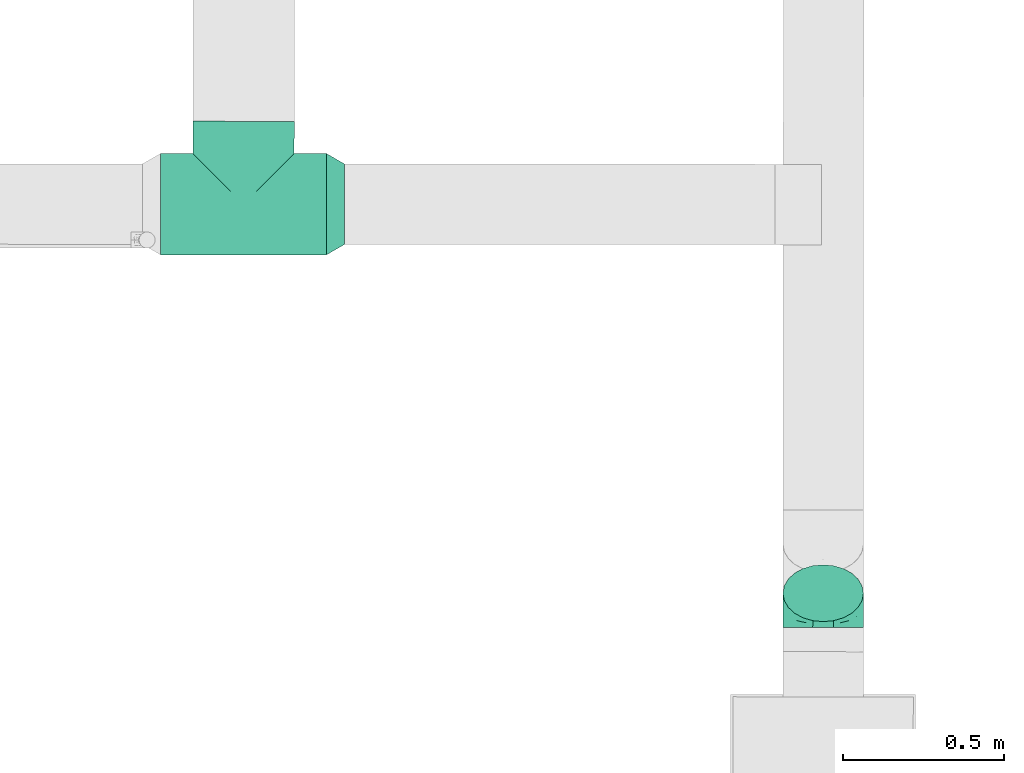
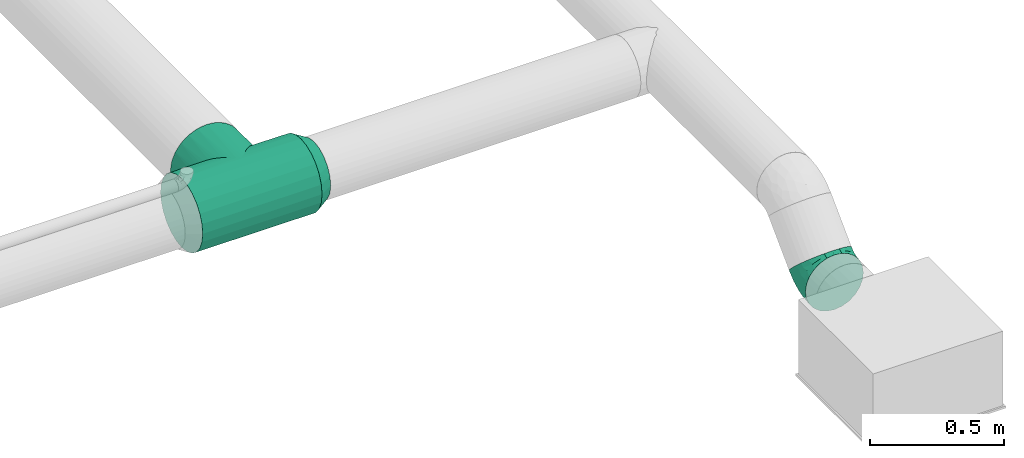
# One storey, part 27 of 63: 3 flow fittings.
"""IFC2X3 building model written with IfcOpenShell, lengths in millimetres."""

from ifc_helpers import new_model, entity, si_unit, converted_unit, derived_unit, direction, frame, origin_with_axes, place, context, subcontext, project, spatial, open_shell, surface_model, source, transform, mapped, type_object, element, save


model = new_model("IFC2X3")

# Units and contexts
model_context = context("Model", 3, precision=0.01, world=frame((0.0, 4.29681676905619e-09, 0.0)), true_north=direction((4.01073788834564e-13, 1.0)))
plan_context = context("Plan", 3, precision=0.01, world=frame((0.0, 4.29681676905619e-09, 0.0)), true_north=direction((4.01073788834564e-13, 1.0)))
body_context = subcontext(model_context, "Body", "Model", "MODEL_VIEW")
ifc_project = project(units=[converted_unit("PLANEANGLEUNIT", "DEGREE", entity("IfcPositiveLengthMeasure", 0.0174532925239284), si_unit("PLANEANGLEUNIT", "RADIAN"), dimensions=[0, 0, 0, 0, 0, 0, 0]), si_unit("AREAUNIT", "SQUARE_METRE"), si_unit("LENGTHUNIT", "METRE", prefix="MILLI"), si_unit("MASSUNIT", "GRAM", prefix="KILO"), si_unit("POWERUNIT", "WATT"), si_unit("PRESSUREUNIT", "PASCAL"), si_unit("FORCEUNIT", "NEWTON", prefix="KILO"), si_unit("ELECTRICVOLTAGEUNIT", "VOLT"), si_unit("ELECTRICCURRENTUNIT", "AMPERE"), si_unit("THERMODYNAMICTEMPERATUREUNIT", "DEGREE_CELSIUS"), si_unit("TIMEUNIT", "SECOND"), si_unit("VOLUMEUNIT", "CUBIC_METRE"), derived_unit("LINEARVELOCITYUNIT", [(si_unit("LENGTHUNIT", "METRE"), 1), (si_unit("TIMEUNIT", "SECOND"), -1)]), derived_unit("VOLUMETRICFLOWRATEUNIT", [(si_unit("VOLUMEUNIT", "CUBIC_METRE"), 1), (si_unit("TIMEUNIT", "SECOND"), -1)]), derived_unit("THERMALTRANSMITTANCEUNIT", [(si_unit("POWERUNIT", "WATT"), 1), (si_unit("THERMODYNAMICTEMPERATUREUNIT", "KELVIN"), -1), (si_unit("AREAUNIT", "SQUARE_METRE"), -1)]), derived_unit("SOUNDPRESSUREUNIT", [(si_unit("PRESSUREUNIT", "PASCAL"), 1)])], contexts=[model_context, plan_context])

# Site, building, storey
site_placement = place(None, frame((0.0, -4.29681676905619e-09, 0.0), z_axis=(0.0, 0.0, 1.0), x_axis=(1.0, 0.0, 0.0)))
site = spatial("IfcSite", under=ifc_project, at=site_placement, CompositionType="ELEMENT")
building_placement = place(site_placement, frame((0.0, 4.29681676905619e-09, 0.0), z_axis=(0.0, 0.0, 1.0), x_axis=(1.0, 0.0, 0.0)))
building = spatial("IfcBuilding", under=site, at=building_placement, Name="mc-building", CompositionType="ELEMENT")
storey_placement = place(building_placement, frame((0.0, 0.0, 210900.0), z_axis=(0.0, 0.0, 1.0), x_axis=(1.0, 0.0, 0.0)))
storey = spatial("IfcBuildingStorey", under=building, at=storey_placement, Name="Nivå F", CompositionType="ELEMENT", Elevation=210900.0)

# Flow fittings
duct_fitting_type_1 = type_object("IfcDuctFittingType", Name="magicirc_elbow_short_001", PredefinedType="BEND")
shared_shape_1 = source(origin_with_axes(), body_context, "Body", "SurfaceModel", [
    surface_model("IfcShellBasedSurfaceModel", [(-62.13204, 0.0, -125.0), (-62.13204, -32.35238, -120.74073), (-62.13204, 32.35238, -120.74073), (-62.13204, 62.5, -108.25318), (-62.13204, 88.38835, -88.38835), (-62.13204, 108.25318, -62.5), (-62.13204, 120.74073, -32.35238), (-62.13204, -62.5, -108.25318), (-62.13204, -88.38835, -88.38835), (-62.13204, -125.0, 0.0), (-62.13204, -108.25318, -62.5), (-62.13204, -120.74073, -32.35238), (-62.13204, 125.0, 0.0), (-62.13204, -120.74073, 32.35238), (-62.13204, 120.74073, 32.35238), (-62.13204, 108.25318, 62.5), (-62.13204, 32.35238, 120.74073), (-62.13204, 62.5, 108.25318), (-62.13204, 88.38835, 88.38835), (-62.13204, -88.38835, 88.38835), (-62.13204, -108.25318, 62.5), (-62.13204, -32.35238, 120.74073), (-62.13204, 0.0, 125.0), (-62.13204, -62.5, 108.25318), (-32.61257, 120.48054, -62.5), (-41.44261, 129.31057, -32.35238), (-44.45436, 132.32233, 0.0), (-41.44261, 129.31057, 32.35238), (-32.61257, 120.48054, 62.5), (-39.32094, -100.77129, 72.52866), (-25.3983, -115.58366, 40.92131), (-9.38975, -99.61313, 67.6303), (-40.71594, 99.20513, 81.38635), (-18.56602, 106.43398, 88.38835), (6.93461, -16.74165, 121.22697), (-29.92798, -19.88945, 122.8817), (-17.69423, -50.99343, 111.83063), (-28.63512, 12.8945, 124.68547), (-43.55871, 45.16564, 117.17454), (-19.1971, 46.34588, 119.14586), (20.11216, -107.05726, 35.36285), (37.22525, -89.79474, 60.1728), (-42.64489, 65.81413, 107.6176), (18.18237, -43.89615, 109.72868), (-48.14682, 116.23669, 52.46898), (11.13029, 29.36587, 124.68547), (-8.4822, -119.71595, 0.0), (17.31186, -111.89141, 0.0), (-27.44697, 77.92943, 103.54984), (-1.13628, 62.73759, 117.17454), (-0.26019, 88.12816, 108.25318), (29.58221, -71.41779, 87.09722), (2.27359, -83.55864, 84.32151), (46.20365, -49.09439, 98.73245), (43.10591, -104.06687, 0.0), (-28.63512, 12.89449, -124.68547), (-29.92797, -19.88945, -122.8817), (11.13029, 29.36586, -124.68547), (-19.1971, 46.34588, -119.14586), (-43.55871, 45.16564, -117.17454), (-35.69649, 74.51237, -103.54983), (-25.3983, -115.58366, -40.92131), (-48.14682, 116.23669, -52.46898), (-39.32094, -100.77129, -72.52866), (-16.38313, 76.69211, -107.6176), (-18.56602, 106.43398, -88.38835), (-0.26019, 88.12816, -108.25318), (-17.69423, -50.99343, -111.83063), (6.93461, -16.74165, -121.22697), (-1.13628, 62.73759, -117.17454), (48.5695, -23.54609, -111.83063), (35.22623, 7.0983, -122.8817), (-9.38975, -99.61313, -67.63031), (2.04406, -67.38589, -98.73245), (29.58221, -71.41778, -87.09723), (43.93399, 43.934, -125.0), (106.43399, -18.56599, 88.38835), (132.32235, -44.45434, 0.0), (21.05739, 66.81058, -120.74073), (88.12817, -0.26017, 108.25318), (66.81057, 21.05741, -120.74073), (106.43399, -18.56599, -88.38835), (88.12817, -0.26017, -108.25318), (129.31058, -41.44258, -32.35238), (120.48055, -32.61255, -62.5), (21.05739, 66.81058, 120.74073), (43.93399, 43.934, 125.0), (129.31058, -41.44258, 32.35238), (120.48055, -32.61255, 62.5), (66.81057, 21.05741, 120.74073), (-31.08246, -121.94188, 0.0), (35.22622, 7.09831, 122.8817), (-25.98217, -78.69805, 94.74512), (-3.43913, -67.17105, 100.02812), (77.07669, -63.79755, 67.6303), (61.9235, -89.5906, 35.66991), (-52.56496, 126.90301, 0.0), (99.68931, -63.77067, 40.92131), (48.5695, -23.54609, 111.83062), (99.06018, -43.45194, 72.52866), (74.0201, -37.27574, 94.74512), (108.20455, -64.2473, 0.0), (90.64979, -78.65413, 0.0), (66.87785, -91.36049, 0.0), (19.56361, -107.13664, -35.66991), (-41.35812, 98.93914, -81.38635), (-25.98217, -78.69805, -94.74512), (61.47949, -89.92235, -35.36285), (18.18239, -43.89616, -109.72867), (57.47721, -60.69254, -84.32152), (74.02009, -37.27574, -94.74513), (77.07669, -63.79755, -67.6303), (37.17223, -89.81669, -60.17279), (99.68931, -63.77066, -40.92131), (99.06018, -43.45194, -72.52866), (49.92893, -45.06527, -100.02812)], [open_shell([[[0, 1, 2]], [[3, 2, 4]], [[1, 5, 2]], [[4, 2, 5]], [[5, 1, 6]], [[7, 8, 1]], [[9, 1, 8]], [[10, 11, 8]], [[9, 8, 11]], [[9, 6, 1]], [[9, 12, 6]], [[12, 13, 14]], [[15, 14, 16]], [[16, 17, 18]], [[15, 16, 18]], [[16, 14, 19]], [[20, 19, 13]], [[19, 14, 13]], [[21, 22, 23]], [[19, 23, 22]], [[19, 22, 16]], [[9, 13, 12]], [[24, 25, 26]], [[26, 27, 28]], [[29, 30, 31]], [[32, 33, 28]], [[30, 20, 13]], [[34, 35, 36]], [[21, 35, 22]], [[21, 23, 36]], [[16, 22, 37]], [[38, 37, 39]], [[31, 40, 41]], [[42, 17, 38]], [[38, 17, 16]], [[43, 34, 36]], [[35, 37, 22]], [[14, 15, 44]], [[42, 32, 18]], [[29, 19, 20]], [[40, 31, 30]], [[37, 45, 39]], [[45, 37, 34]], [[40, 46, 47]], [[42, 18, 17]], [[33, 32, 48]], [[27, 44, 28]], [[48, 39, 49]], [[33, 48, 50]], [[44, 32, 28]], [[18, 32, 15]], [[36, 35, 21]], [[37, 35, 34]], [[41, 51, 52]], [[14, 44, 27]], [[32, 44, 15]], [[37, 38, 16]], [[42, 39, 48]], [[39, 42, 38]], [[42, 48, 32]], [[48, 49, 50]], [[45, 49, 39]], [[30, 29, 20]], [[53, 43, 51]], [[46, 40, 30]], [[47, 54, 40]], [[41, 52, 31]], [[0, 2, 55]], [[56, 1, 0]], [[57, 55, 58]], [[59, 60, 58]], [[10, 61, 11]], [[3, 4, 60]], [[62, 6, 25]], [[61, 10, 63]], [[64, 65, 66]], [[1, 56, 67]], [[8, 63, 10]], [[7, 1, 67]], [[56, 55, 68]], [[25, 24, 62]], [[69, 64, 66]], [[2, 3, 59]], [[59, 55, 2]], [[69, 57, 58]], [[70, 68, 71]], [[55, 57, 68]], [[55, 56, 0]], [[67, 56, 68]], [[57, 71, 68]], [[6, 62, 5]], [[60, 59, 3]], [[55, 59, 58]], [[64, 58, 60]], [[58, 64, 69]], [[61, 63, 72]], [[72, 73, 74]], [[75, 76, 77]], [[66, 26, 78]], [[78, 79, 75]], [[24, 66, 65]], [[66, 24, 26]], [[80, 81, 82]], [[80, 75, 81]], [[81, 83, 84]], [[83, 81, 77]], [[75, 77, 81]], [[26, 28, 50]], [[50, 85, 26]], [[50, 28, 33]], [[26, 85, 86]], [[87, 76, 88]], [[77, 76, 87]], [[79, 86, 89]], [[76, 75, 79]], [[86, 79, 26]], [[78, 26, 79]], [[90, 46, 30]], [[91, 45, 34]], [[23, 92, 36]], [[52, 93, 92]], [[94, 41, 95]], [[23, 19, 92]], [[96, 14, 27]], [[40, 95, 41]], [[96, 12, 14]], [[94, 95, 97]], [[40, 54, 95]], [[98, 89, 91]], [[99, 88, 76]], [[89, 98, 79]], [[88, 99, 97]], [[88, 97, 87]], [[98, 100, 79]], [[53, 94, 100]], [[97, 101, 87]], [[85, 50, 49]], [[41, 94, 51]], [[30, 13, 90]], [[26, 96, 27]], [[95, 102, 97]], [[95, 54, 103]], [[86, 91, 89]], [[86, 85, 45]], [[45, 85, 49]], [[34, 43, 98]], [[29, 92, 19]], [[79, 100, 76]], [[52, 92, 31]], [[95, 103, 102]], [[53, 100, 98]], [[99, 100, 94]], [[45, 91, 86]], [[98, 91, 34]], [[13, 9, 90]], [[101, 97, 102]], [[101, 77, 87]], [[92, 29, 31]], [[100, 99, 76]], [[97, 99, 94]], [[93, 36, 92]], [[51, 43, 93]], [[51, 93, 52]], [[43, 36, 93]], [[43, 53, 98]], [[94, 53, 51]], [[104, 46, 61]], [[78, 75, 57]], [[4, 105, 60]], [[73, 72, 106]], [[80, 82, 70]], [[61, 90, 11]], [[83, 77, 101]], [[106, 7, 67]], [[107, 102, 103]], [[104, 54, 47]], [[72, 104, 61]], [[106, 8, 7]], [[68, 108, 67]], [[6, 12, 96]], [[109, 110, 111]], [[96, 26, 25]], [[112, 72, 74]], [[113, 83, 101]], [[82, 81, 110]], [[113, 84, 83]], [[64, 105, 65]], [[4, 5, 105]], [[114, 81, 84]], [[110, 109, 115]], [[70, 82, 110]], [[66, 78, 69]], [[75, 80, 71]], [[111, 114, 113]], [[108, 68, 70]], [[113, 101, 102]], [[107, 104, 112]], [[107, 111, 113]], [[111, 107, 112]], [[71, 57, 75]], [[104, 47, 46]], [[96, 25, 6]], [[114, 110, 81]], [[107, 54, 104]], [[73, 106, 67]], [[63, 106, 72]], [[62, 105, 5]], [[65, 105, 24]], [[70, 71, 80]], [[90, 61, 46]], [[90, 9, 11]], [[72, 112, 104]], [[112, 74, 109]], [[105, 62, 24]], [[57, 69, 78]], [[64, 60, 105]], [[113, 114, 84]], [[110, 114, 111]], [[106, 63, 8]], [[115, 70, 110]], [[73, 108, 74]], [[102, 107, 113]], [[103, 54, 107]], [[112, 109, 111]], [[74, 108, 115]], [[74, 115, 109]], [[108, 70, 115]], [[108, 73, 67]]])]),
])
flow_fitting_1_placement = place(storey_placement, frame((534103.93333, 451341.47303, 3960.01264), z_axis=(0.999999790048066, -0.000647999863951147, 0.0), x_axis=(0.000647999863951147, 0.999999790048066, 0.0)))
element("IfcFlowFitting", 1, at=flow_fitting_1_placement, inside=storey, type_object=duct_fitting_type_1, Name="magicirc_elbow_short_001", context=body_context, shape_type="MappedRepresentation", body=[
    mapped(shared_shape_1, transform((0.0, 0.0, 0.0), scale=1.0)),
])
duct_fitting_type_2 = type_object("IfcDuctFittingType", Name="magicirc_tee_centric_90_001", PredefinedType="JUNCTION")
shared_shape_2 = source(origin_with_axes(), body_context, "Body", "SurfaceModel", [
    surface_model("IfcShellBasedSurfaceModel", [(-257.5, 40.764, -152.13332), (-257.5, 0.0, -157.5), (-257.5, 152.13332, -40.764), (-257.5, 78.75, -136.39901), (-257.5, 136.39901, -78.75), (-257.5, 111.36932, -111.36932), (-257.5, -157.5, 0.0), (-257.5, -78.75, -136.39901), (-257.5, -111.36932, -111.36932), (-257.5, -40.764, -152.13332), (-257.5, -152.13332, -40.764), (-257.5, -136.39901, -78.75), (-257.5, -111.36932, 111.36932), (-257.5, 136.39901, 78.75), (-257.5, 152.13332, 40.764), (-257.5, 157.5, 0.0), (-257.5, 40.764, 152.13332), (-257.5, 78.75, 136.39901), (-257.5, 111.36932, 111.36932), (-257.5, 0.0, 157.5), (-257.5, -152.13332, 40.764), (-257.5, -136.39901, 78.75), (-257.5, -78.75, 136.39901), (-257.5, -40.764, 152.13332), (257.5, 152.13332, -40.764), (257.5, 0.0, -157.5), (257.5, 40.764, -152.13332), (257.5, 78.75, -136.39901), (257.5, 111.36932, -111.36932), (257.5, 136.39901, -78.75), (257.5, -40.764, -152.13332), (257.5, -111.36932, -111.36932), (257.5, -78.75, -136.39901), (257.5, -152.13332, -40.764), (257.5, -136.39901, -78.75), (257.5, -157.5, 0.0), (257.5, 136.39901, 78.75), (257.5, 157.5, 0.0), (257.5, 152.13332, 40.764), (257.5, -111.36932, 111.36932), (257.5, 78.75, 136.39901), (257.5, 40.764, 152.13332), (257.5, 111.36932, 111.36932), (257.5, 0.0, 157.5), (257.5, -136.39901, 78.75), (257.5, -152.13332, 40.764), (257.5, -40.764, 152.13332), (257.5, -78.75, 136.39901), (156.38291, -156.38291, 18.72524), (157.5, -157.5, 0.0), (257.5, -154.81666, 20.382), (153.10726, -153.10726, 36.93798), (140.95819, -140.95819, 70.26406), (147.87507, -147.87507, 54.21453), (257.5, -144.26616, 59.757), (257.5, -123.88416, 95.05966), (132.64215, -132.64215, 84.92533), (123.18918, -123.18918, 98.13601), (112.82257, -112.82257, 109.89684), (90.04708, -90.04708, 129.21987), (101.72534, -101.72534, 120.24227), (257.5, -95.05966, 123.88416), (-147.87507, -147.87507, 54.21453), (-257.5, -144.26616, 59.757), (-153.10726, -153.10726, 36.93798), (-157.5, -157.5, 0.0), (-156.38291, -156.38291, 18.72524), (-257.5, -154.81666, 20.382), (-140.95819, -140.95819, 70.26406), (-123.18918, -123.18918, 98.13601), (-112.82257, -112.82257, 109.89684), (-90.04708, -90.04708, 129.21987), (-257.5, -95.05966, 123.88416), (-101.72534, -101.72534, 120.24227), (-257.5, -123.88416, 95.05966), (-132.64215, -132.64215, 84.92533), (-77.91101, -77.91101, 136.87996), (77.91101, -77.91101, 136.87996), (65.41408, -65.41408, 143.27333), (52.63766, -52.63766, 148.44368), (26.51413, -26.51413, 155.25222), (39.65101, -39.65101, 152.42718), (0.0, 0.0, 157.5), (13.28058, -13.28058, 156.93908), (-26.51413, -26.51413, 155.25222), (-39.65101, -39.65101, 152.42718), (-65.41408, -65.41408, 143.27333), (-52.63766, -52.63766, 148.44368), (-13.28058, -13.28058, 156.93908), (0.0, 0.0, -157.5), (65.41408, -65.41408, -143.27333), (77.91101, -77.91101, -136.87996), (52.63766, -52.63766, -148.44368), (90.04708, -90.04708, -129.21987), (257.5, -95.05966, -123.88416), (101.72534, -101.72534, -120.24227), (13.28058, -13.28058, -156.93908), (26.51413, -26.51413, -155.25222), (140.95819, -140.95819, -70.26406), (257.5, -144.26616, -59.757), (147.87507, -147.87507, -54.21453), (39.65101, -39.65101, -152.42718), (-132.64215, -132.64215, -84.92533), (-257.5, -123.88416, -95.05966), (-123.18918, -123.18918, -98.13601), (-13.28058, -13.28058, -156.93908), (-26.51413, -26.51413, -155.25222), (-101.72534, -101.72534, -120.24227), (-257.5, -95.05966, -123.88416), (-39.65101, -39.65101, -152.42718), (-52.63766, -52.63766, -148.44368), (123.18918, -123.18918, -98.13601), (257.5, -123.88416, -95.05966), (-147.87507, -147.87507, -54.21453), (-257.5, -144.26616, -59.757), (-65.41408, -65.41408, -143.27333), (153.10726, -153.10726, -36.93798), (257.5, -154.81666, -20.382), (156.38291, -156.38291, -18.72524), (-77.91101, -77.91101, -136.87996), (-156.38291, -156.38291, -18.72524), (-257.5, -154.81666, -20.382), (132.64215, -132.64215, -84.92533), (112.82257, -112.82257, -109.89684), (-112.82257, -112.82257, -109.89684), (-90.04708, -90.04708, -129.21987), (-140.95819, -140.95819, -70.26406), (-153.10726, -153.10726, -36.93798), (152.13332, -257.5, -40.764), (0.0, -257.5, -157.5), (40.764, -257.5, -152.13332), (78.75, -257.5, -136.39901), (111.36932, -257.5, -111.36932), (136.39901, -257.5, -78.75), (-157.5, -257.5, 0.0), (-40.764, -257.5, -152.13332), (-111.36932, -257.5, -111.36932), (-78.75, -257.5, -136.39901), (-152.13332, -257.5, -40.764), (-136.39901, -257.5, -78.75), (157.5, -257.5, 0.0), (152.13332, -257.5, 40.764), (136.39901, -257.5, 78.75), (-40.764, -257.5, 152.13332), (78.75, -257.5, 136.39901), (40.764, -257.5, 152.13332), (111.36932, -257.5, 111.36932), (0.0, -257.5, 157.5), (-136.39901, -257.5, 78.75), (-152.13332, -257.5, 40.764), (-111.36932, -257.5, 111.36932), (-78.75, -257.5, 136.39901)], [open_shell([[[0, 1, 2]], [[3, 0, 2]], [[2, 4, 5]], [[3, 2, 5]], [[6, 2, 1]], [[7, 8, 9]], [[10, 9, 8]], [[11, 10, 8]], [[6, 9, 10]], [[6, 1, 9]], [[6, 12, 2]], [[13, 14, 15]], [[12, 13, 2]], [[13, 16, 17]], [[18, 13, 17]], [[16, 13, 19]], [[20, 21, 6]], [[6, 21, 12]], [[22, 23, 12]], [[23, 13, 12]], [[13, 23, 19]], [[13, 15, 2]], [[24, 25, 26]], [[24, 26, 27]], [[28, 29, 24]], [[28, 24, 27]], [[25, 24, 30]], [[30, 31, 32]], [[31, 30, 33]], [[31, 33, 34]], [[33, 30, 35]], [[30, 24, 35]], [[24, 36, 35]], [[37, 38, 36]], [[36, 39, 35]], [[40, 41, 36]], [[40, 36, 42]], [[43, 36, 41]], [[35, 44, 45]], [[39, 44, 35]], [[39, 46, 47]], [[39, 36, 46]], [[43, 46, 36]], [[36, 24, 37]], [[48, 49, 35]], [[50, 45, 51]], [[48, 50, 51]], [[52, 53, 54]], [[51, 45, 53]], [[54, 44, 52]], [[44, 55, 56]], [[57, 55, 39]], [[44, 56, 52]], [[58, 57, 39]], [[59, 60, 61]], [[58, 39, 60]], [[61, 47, 59]], [[20, 62, 63]], [[64, 62, 20]], [[6, 65, 66]], [[66, 67, 6]], [[67, 64, 20]], [[68, 21, 63]], [[69, 70, 12]], [[71, 22, 72]], [[70, 73, 12]], [[69, 74, 75]], [[75, 21, 68]], [[75, 74, 21]], [[73, 72, 12]], [[22, 71, 76]], [[77, 47, 78]], [[78, 47, 46]], [[60, 39, 61]], [[79, 78, 46]], [[53, 45, 54]], [[80, 81, 46]], [[79, 46, 81]], [[46, 43, 80]], [[64, 67, 66]], [[42, 18, 40]], [[36, 13, 42]], [[38, 14, 36]], [[82, 83, 43]], [[43, 83, 80]], [[82, 43, 41]], [[40, 17, 41]], [[38, 37, 15]], [[69, 12, 74]], [[48, 35, 50]], [[56, 55, 57]], [[23, 84, 19]], [[85, 84, 23]], [[86, 23, 22]], [[87, 23, 86]], [[23, 87, 85]], [[86, 22, 76]], [[84, 88, 19]], [[68, 63, 62]], [[82, 19, 88]], [[19, 82, 16]], [[16, 82, 41]], [[17, 16, 41]], [[40, 18, 17]], [[42, 13, 18]], [[14, 13, 36]], [[38, 15, 14]], [[71, 72, 73]], [[77, 59, 47]], [[28, 27, 3]], [[27, 26, 0]], [[2, 37, 24]], [[2, 24, 29]], [[29, 28, 5]], [[89, 26, 25]], [[90, 32, 91]], [[32, 90, 30]], [[30, 90, 92]], [[93, 94, 95]], [[96, 25, 97]], [[98, 99, 100]], [[92, 101, 30]], [[97, 30, 101]], [[102, 103, 104]], [[97, 25, 30]], [[25, 96, 89]], [[37, 2, 15]], [[26, 89, 0]], [[29, 4, 2]], [[29, 5, 4]], [[28, 3, 5]], [[0, 3, 27]], [[89, 1, 0]], [[105, 106, 1]], [[107, 8, 108]], [[109, 110, 9]], [[111, 31, 112]], [[113, 10, 114]], [[106, 109, 9]], [[1, 106, 9]], [[9, 115, 7]], [[116, 117, 118]], [[110, 115, 9]], [[7, 115, 119]], [[120, 6, 121]], [[105, 1, 89]], [[95, 94, 31]], [[122, 112, 34]], [[111, 112, 122]], [[93, 32, 94]], [[111, 123, 31]], [[95, 31, 123]], [[100, 99, 33]], [[117, 35, 118]], [[49, 118, 35]], [[98, 34, 99]], [[116, 33, 117]], [[100, 33, 116]], [[34, 98, 122]], [[107, 124, 8]], [[107, 108, 125]], [[125, 108, 7]], [[8, 104, 103]], [[124, 104, 8]], [[103, 102, 11]], [[7, 119, 125]], [[113, 114, 126]], [[120, 121, 127]], [[113, 127, 10]], [[126, 114, 11]], [[10, 127, 121]], [[65, 6, 120]], [[126, 11, 102]], [[91, 32, 93]], [[128, 129, 130]], [[128, 130, 131]], [[132, 133, 128]], [[132, 128, 131]], [[129, 128, 134]], [[135, 136, 137]], [[136, 135, 138]], [[136, 138, 139]], [[138, 135, 134]], [[135, 129, 134]], [[128, 140, 134]], [[140, 141, 142]], [[143, 140, 142]], [[144, 145, 142]], [[144, 142, 146]], [[147, 142, 145]], [[134, 148, 149]], [[150, 148, 134]], [[150, 143, 151]], [[150, 140, 143]], [[147, 143, 142]], [[150, 134, 140]], [[134, 149, 66]], [[66, 65, 134]], [[64, 66, 149]], [[149, 62, 64]], [[150, 69, 148]], [[151, 73, 150]], [[62, 148, 68]], [[148, 62, 149]], [[75, 68, 148]], [[151, 143, 86]], [[69, 75, 148]], [[70, 69, 150]], [[71, 73, 151]], [[76, 71, 151]], [[70, 150, 73]], [[87, 86, 143]], [[85, 87, 143]], [[147, 88, 84]], [[147, 82, 88]], [[85, 143, 84]], [[76, 151, 86]], [[147, 84, 143]], [[146, 60, 144]], [[145, 80, 147]], [[145, 144, 78]], [[57, 146, 142]], [[48, 141, 140]], [[48, 140, 49]], [[51, 53, 141]], [[48, 51, 141]], [[141, 53, 142]], [[52, 142, 53]], [[78, 79, 145]], [[77, 78, 144]], [[80, 83, 147]], [[81, 80, 145]], [[79, 81, 145]], [[56, 57, 142]], [[52, 56, 142]], [[60, 59, 144]], [[58, 60, 146]], [[57, 58, 146]], [[77, 144, 59]], [[147, 83, 82]], [[140, 128, 118]], [[118, 49, 140]], [[116, 118, 128]], [[128, 100, 116]], [[132, 111, 133]], [[131, 95, 132]], [[100, 133, 98]], [[133, 100, 128]], [[122, 98, 133]], [[131, 130, 90]], [[111, 122, 133]], [[123, 111, 132]], [[93, 95, 131]], [[91, 93, 131]], [[123, 132, 95]], [[92, 90, 130]], [[101, 92, 130]], [[129, 96, 97]], [[129, 89, 96]], [[101, 130, 97]], [[91, 131, 90]], [[129, 97, 130]], [[136, 107, 137]], [[135, 106, 129]], [[135, 137, 115]], [[104, 136, 139]], [[120, 138, 134]], [[120, 134, 65]], [[127, 113, 138]], [[120, 127, 138]], [[138, 113, 139]], [[126, 139, 113]], [[115, 110, 135]], [[119, 115, 137]], [[106, 105, 129]], [[109, 106, 135]], [[110, 109, 135]], [[102, 104, 139]], [[126, 102, 139]], [[107, 125, 137]], [[124, 107, 136]], [[104, 124, 136]], [[119, 137, 125]], [[129, 105, 89]]])]),
])
flow_fitting_2_placement = place(storey_placement, frame((532303.34085, 452593.85517, 4200.0), z_axis=(0.0, 0.0, 1.0), x_axis=(-0.999999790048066, 0.000647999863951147, 0.0)))
element("IfcFlowFitting", 2, at=flow_fitting_2_placement, inside=storey, type_object=duct_fitting_type_2, Name="magicirc_tee_centric_90_001", context=body_context, shape_type="MappedRepresentation", body=[
    mapped(shared_shape_2, transform((0.0, 0.0, 0.0), scale=1.0)),
])
duct_fitting_type_3 = type_object("IfcDuctFittingType", Name="magicirc_reduction_001", PredefinedType="TRANSITION")
shared_shape_3 = source(origin_with_axes(), body_context, "Body", "SurfaceModel", [
    surface_model("IfcShellBasedSurfaceModel", [(0.0, 78.75, 136.39901), (0.0, 157.5, 0.0), (0.0, 40.764, 152.13332), (0.0, -78.75, 136.39901), (0.0, -152.13332, -40.764), (0.0, -111.36932, 111.36932), (0.0, -136.39901, 78.75), (0.0, -152.13332, 40.764), (0.0, -157.5, 0.0), (0.0, 152.13332, -40.764), (0.0, 136.39901, -78.75), (0.0, 0.0, -157.5), (0.0, 111.36932, -111.36932), (0.0, 78.75, -136.39901), (0.0, 40.764, -152.13332), (0.0, -136.39901, -78.75), (0.0, -78.75, -136.39901), (0.0, -111.36932, -111.36932), (0.0, -40.764, -152.13332), (0.0, 0.0, 157.5), (56.29165, 38.62713, 118.88206), (56.29165, -38.62713, 118.88206), (56.29165, -73.47315, 101.12712), (56.29165, -101.12712, 73.47315), (56.29165, -118.88206, 38.62713), (56.29165, -125.0, 0.0), (56.29165, 0.0, 125.0), (56.29165, 118.88206, -38.62713), (56.29165, 73.47315, 101.12712), (56.29165, 101.12712, 73.47315), (56.29165, 118.88206, 38.62713), (56.29165, -118.88206, -38.62713), (56.29165, -101.12712, -73.47315), (56.29165, 0.0, -125.0), (56.29165, -73.47315, -101.12712), (56.29165, -38.62713, -118.88206), (56.29165, 125.0, 0.0), (56.29165, 73.47315, -101.12712), (56.29165, 101.12712, -73.47315), (56.29165, 38.62713, -118.88206), (0.0, 136.39901, 78.75), (0.0, 111.36932, 111.36932), (0.0, -40.764, 152.13332), (0.0, 152.13332, 40.764)], [open_shell([[[0, 1, 2]], [[3, 4, 5]], [[6, 5, 4]], [[6, 4, 7]], [[7, 4, 8]], [[1, 9, 10]], [[11, 12, 13]], [[14, 11, 13]], [[15, 16, 17]], [[16, 11, 18]], [[1, 4, 19]], [[20, 21, 22]], [[23, 24, 25]], [[23, 25, 22]], [[20, 22, 25]], [[26, 21, 20]], [[20, 27, 28]], [[28, 27, 29]], [[27, 30, 29]], [[25, 27, 20]], [[31, 32, 33]], [[34, 35, 33]], [[34, 33, 32]], [[33, 27, 25]], [[30, 27, 36]], [[33, 37, 38]], [[38, 27, 33]], [[37, 33, 39]], [[25, 31, 33]], [[1, 19, 2]], [[40, 1, 41]], [[41, 1, 0]], [[5, 19, 4]], [[19, 5, 3]], [[3, 42, 19]], [[5, 4, 6]], [[8, 7, 4]], [[1, 40, 43]], [[1, 10, 14]], [[13, 14, 10]], [[13, 10, 12]], [[1, 14, 4]], [[14, 17, 15]], [[15, 4, 14]], [[14, 16, 17]], [[18, 16, 14]], [[11, 18, 14]], [[35, 34, 16]], [[33, 35, 18]], [[18, 11, 33]], [[16, 18, 35]], [[34, 17, 16]], [[31, 25, 4]], [[32, 31, 15]], [[15, 17, 32]], [[4, 15, 31]], [[25, 8, 4]], [[32, 17, 34]], [[27, 38, 10]], [[36, 27, 9]], [[9, 1, 36]], [[10, 9, 27]], [[38, 12, 10]], [[39, 33, 14]], [[37, 39, 13]], [[13, 12, 37]], [[14, 13, 39]], [[33, 11, 14]], [[37, 12, 38]], [[20, 28, 0]], [[26, 20, 2]], [[2, 19, 26]], [[0, 2, 20]], [[28, 41, 0]], [[30, 36, 43]], [[29, 30, 40]], [[40, 41, 29]], [[43, 40, 30]], [[36, 1, 43]], [[29, 41, 28]], [[24, 23, 6]], [[25, 24, 7]], [[7, 8, 25]], [[6, 7, 24]], [[23, 5, 6]], [[21, 26, 42]], [[22, 21, 3]], [[3, 5, 22]], [[42, 3, 21]], [[26, 19, 42]], [[22, 5, 23]], [[42, 19, 2]], [[0, 42, 2]], [[0, 41, 1]], [[0, 1, 42]], [[42, 4, 3]], [[11, 1, 9]], [[10, 11, 9]], [[12, 11, 10]], [[11, 15, 4]], [[11, 16, 15]], [[4, 1, 11]], [[1, 4, 42]], [[21, 22, 25]], [[21, 25, 26]], [[20, 26, 28]], [[26, 29, 28]], [[30, 29, 27]], [[27, 29, 26]], [[26, 25, 35]], [[31, 32, 34]], [[35, 27, 26]], [[35, 31, 34]], [[39, 35, 33]], [[35, 38, 27]], [[35, 37, 38]], [[39, 37, 35]], [[25, 31, 35]], [[25, 7, 8]], [[7, 24, 6]], [[19, 42, 26]], [[3, 21, 42]], [[26, 2, 19]], [[2, 20, 0]], [[1, 43, 36]], [[40, 30, 43]], [[36, 9, 1]], [[9, 27, 10]], [[11, 14, 33]], [[13, 39, 14]], [[33, 18, 11]], [[18, 35, 16]], [[8, 4, 25]], [[15, 31, 4]], [[26, 21, 22]], [[26, 23, 20]], [[23, 26, 22]], [[23, 27, 29]], [[28, 20, 29]], [[29, 36, 30]], [[29, 20, 23]], [[29, 27, 36]], [[23, 31, 27]], [[32, 34, 35]], [[27, 31, 32]], [[33, 32, 35]], [[38, 27, 37]], [[33, 37, 27]], [[27, 32, 33]], [[31, 23, 25]], [[41, 19, 2]], [[41, 2, 0]], [[19, 40, 4]], [[40, 19, 41]], [[7, 19, 4]], [[42, 5, 3]], [[42, 19, 5]], [[5, 7, 6]], [[19, 7, 5]], [[43, 10, 40]], [[9, 10, 43]], [[40, 10, 4]], [[4, 10, 13]], [[18, 13, 14]], [[4, 17, 15]], [[17, 4, 16]], [[13, 18, 16]], [[16, 4, 13]], [[43, 1, 9]], [[13, 37, 39]], [[38, 37, 12]], [[33, 14, 39]], [[27, 10, 9]], [[37, 13, 12]], [[11, 33, 18]], [[18, 33, 35]], [[34, 16, 35]], [[15, 32, 31]], [[17, 34, 32]], [[4, 31, 25]], [[17, 32, 15]], [[31, 4, 15]], [[3, 22, 21]], [[23, 22, 5]], [[26, 42, 21]], [[24, 6, 7]], [[22, 3, 5]], [[19, 26, 2]], [[2, 26, 20]], [[28, 0, 20]], [[40, 29, 30]], [[41, 28, 29]], [[43, 30, 36]], [[41, 29, 40]], [[30, 43, 40]]])]),
])
flow_fitting_3_placement = place(storey_placement, frame((532560.84079, 452593.68837, 4200.0), z_axis=(0.0, 0.0, 1.0), x_axis=(0.999999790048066, -0.000647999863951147, 0.0)))
element("IfcFlowFitting", 3, at=flow_fitting_3_placement, inside=storey, type_object=duct_fitting_type_3, Name="magicirc_reduction_001", context=body_context, shape_type="MappedRepresentation", body=[
    mapped(shared_shape_3, transform((0.0, 0.0, 0.0), scale=1.0)),
])

save(model, "model.ifc")
